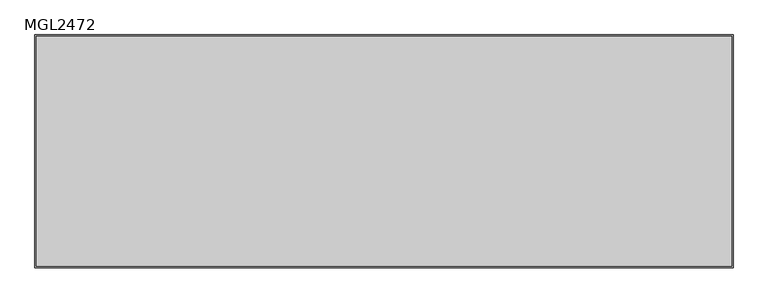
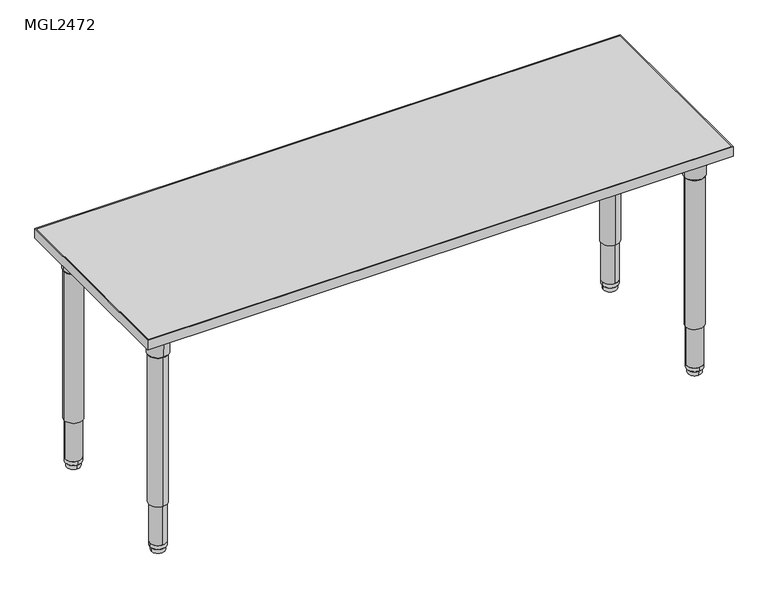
"""IFC4 building model written with IfcOpenShell, lengths in millimetres: furniture geometry, ERG-Mingle-Table-Rectangle : MGL2472."""

from ifc_helpers import new_model, si_unit, point, frame, frame_2d, origin, place, context, project, spatial, polyline, circle_curve, trimmed, segment, composite_curve, outline, extrude, source, transform, mapped, element, save
from ifc_brep_helpers import plane_surface, cylinder_surface, revolved_surface, advanced_brep


def mgl2472_9e382c9f(model_context):
    return source(origin(), model_context, "Body", "SolidModel", [
        advanced_brep(
        [(808.1646842, -228.6, 650.5933069), (868.2353158, -228.6, 650.5933069), (838.2, -228.6, 650.5933069), (806.056117, -228.6, 654.3580481), (870.343883, -228.6, 654.3580481), (805.1206351, -228.6, 707.7631458), (871.2793649, -228.6, 707.7631458), (801.671083, -228.6, 714.1198315), (874.728917, -228.6, 714.1198315), (801.671083, -228.6, 726.8198315), (874.728917, -228.6, 726.8198315), (838.2, -228.6, 726.8198315)],
        [
            (0, 1, circle_curve(frame((838.2, -228.6, 650.5933069), z_axis=(0.0, 0.0, -1.0), x_axis=(1.0, 0.0, 0.0)), 30.0353158)),
            (1, 2),
            (2, 0),
            (1, 0, circle_curve(frame((838.2, -228.6, 650.5933069), z_axis=(0.0, 0.0, -1.0), x_axis=(1.0, 0.0, 0.0)), 30.0353158)),
            (3, 4, circle_curve(frame((838.2, -228.6, 654.3580481), z_axis=(0.0, 0.0, -1.0), x_axis=(1.0, 0.0, 0.0)), 32.143883)),
            (4, 1),
            (0, 3),
            (4, 3, circle_curve(frame((838.2, -228.6, 654.3580481), z_axis=(0.0, 0.0, -1.0), x_axis=(1.0, 0.0, 0.0)), 32.143883)),
            (5, 6, circle_curve(frame((838.2, -228.6, 707.7631458), z_axis=(0.0, 0.0, -1.0), x_axis=(1.0, 0.0, 0.0)), 33.0793649)),
            (6, 4),
            (3, 5),
            (6, 5, circle_curve(frame((838.2, -228.6, 707.7631458), z_axis=(0.0, 0.0, -1.0), x_axis=(1.0, 0.0, 0.0)), 33.0793649)),
            (7, 8, circle_curve(frame((838.2, -228.6, 714.1198315), z_axis=(0.0, 0.0, -1.0), x_axis=(1.0, 0.0, 0.0)), 36.528917)),
            (8, 6),
            (5, 7),
            (8, 7, circle_curve(frame((838.2, -228.6, 714.1198315), z_axis=(0.0, 0.0, -1.0), x_axis=(1.0, 0.0, 0.0)), 36.528917)),
            (9, 10, circle_curve(frame((838.2, -228.6, 726.8198315), z_axis=(0.0, 0.0, -1.0), x_axis=(1.0, 0.0, 0.0)), 36.528917)),
            (10, 8),
            (7, 9),
            (10, 9, circle_curve(frame((838.2, -228.6, 726.8198315), z_axis=(0.0, 0.0, -1.0), x_axis=(1.0, 0.0, 0.0)), 36.528917)),
            (11, 10),
            (9, 11),
        ],
        [
            plane_surface(frame((838.2, -228.6, 650.5933069), z_axis=(0.0, 0.0, -1.0), x_axis=(1.0, 0.0, 0.0))),
            revolved_surface(polyline([(868.2353158, -228.6, 650.5933069), (870.343883, -228.6, 654.3580481)]), (838.2, -228.6, 726.8198315), (0.0, 0.0, 1.0)),
            revolved_surface(polyline([(870.343883, -228.6, 654.3580481), (871.2793649, -228.6, 707.7631458)]), (838.2, -228.6, 726.8198315), (0.0, 0.0, 1.0)),
            revolved_surface(polyline([(871.2793649, -228.6, 707.7631458), (874.728917, -228.6, 714.1198315)]), (838.2, -228.6, 726.8198315), (0.0, 0.0, 1.0)),
            cylinder_surface(frame((838.2, -228.6, 726.8198315), z_axis=(0.0, 0.0, 1.0), x_axis=(1.0, 0.0, 0.0)), 36.528917),
            plane_surface(frame((838.2, -228.6, 726.8198315), z_axis=(0.0, 0.0, 1.0), x_axis=(1.0, 0.0, 0.0))),
        ],
        [
            (0, [[1, 2, 3]]),
            (0, [[4, -3, -2]]),
            (1, [[5, 6, -1, 7]]),
            (1, [[8, -7, -4, -6]]),
            (2, [[9, 10, -5, 11]]),
            (2, [[12, -11, -8, -10]]),
            (3, [[13, 14, -9, 15]]),
            (3, [[16, -15, -12, -14]]),
            (4, [[17, 18, -13, 19]]),
            (4, [[20, -19, -16, -18]]),
            (5, [[21, -17, 22]]),
            (5, [[-22, -20, -21]]),
        ],
    ),
        extrude(outline(composite_curve([segment(polyline([(884.073768, -146.0223426), (884.073768, -259.7483754)]), True, "CONTINUOUS"), segment(trimmed(circle_curve(frame_2d((868.198768, -259.7483754)), 15.875), [point((884.073768, -259.7483754))], [point((868.198768, -275.6233754))], False, "CARTESIAN"), True, "CONTINUOUS"), segment(polyline([(868.198768, -275.6233754), (754.4864205, -275.6233754)]), True, "CONTINUOUS"), segment(trimmed(circle_curve(frame_2d((754.4864205, -262.9233754)), 12.7), [point((754.4864205, -275.6233754))], [point((741.8491923, -261.6622394))], False, "CARTESIAN"), True, "CONTINUOUS"), segment(trimmed(circle_curve(frame_2d((884.3486077, -275.8830117)), 143.2072406), [point((741.8491923, -261.6622394))], [point((870.1111525, -133.3852622))], False, "CARTESIAN"), True, "CONTINUOUS"), segment(trimmed(circle_curve(frame_2d((871.373768, -146.0223426)), 12.7), [point((870.1111525, -133.3852622))], [point((884.073768, -146.0223426))], False, "CARTESIAN"), True, "CONTINUOUS")], self_intersect=False)), frame((0.0, 0.0, 726.8198315), z_axis=(0.0, 0.0, 1.0), x_axis=(1.0, 0.0, 0.0)), (0.0, 0.0, 1.0), 3.4301685),
        extrude(outline(composite_curve([segment(trimmed(circle_curve(frame_2d((838.2, -228.6)), 28.575), [point((866.775, -228.6))], [point((809.625, -228.6))], False, "CARTESIAN"), True, "CONTINUOUS"), segment(trimmed(circle_curve(frame_2d((838.2, -228.6)), 28.575), [point((809.625, -228.6))], [point((866.775, -228.6))], False, "CARTESIAN"), True, "CONTINUOUS")], self_intersect=False)), frame((0.0, 0.0, 158.3876979), z_axis=(0.0, 0.0, 1.0), x_axis=(1.0, 0.0, 0.0)), (0.0, 0.0, 1.0), 495.4089866),
        extrude(outline(composite_curve([segment(trimmed(circle_curve(frame_2d((838.2, -228.6)), 25.4), [point((863.6, -228.6))], [point((812.8, -228.6))], False, "CARTESIAN"), True, "CONTINUOUS"), segment(trimmed(circle_curve(frame_2d((838.2, -228.6)), 25.4), [point((812.8, -228.6))], [point((863.6, -228.6))], False, "CARTESIAN"), True, "CONTINUOUS")], self_intersect=False)), frame((0.0, 0.0, 28.9580435), z_axis=(0.0, 0.0, 1.0), x_axis=(1.0, 0.0, 0.0)), (0.0, 0.0, 1.0), 176.7049119),
        advanced_brep(
        [(838.2, -203.3649896, 28.9580185), (838.2, -253.8350104, 28.9580185), (838.2, -228.6, 28.9580185), (838.2, -203.500761, 16.3032949), (838.2, -253.699239, 16.3032949), (838.2, -205.0160619, 14.7291007), (838.2, -252.1839381, 14.7291007), (838.2, -207.4591422, 14.7291007), (838.2, -249.7408578, 14.7291007), (838.2, -207.6521336, 0.0), (838.2, -249.5478664, 0.0), (838.2, -228.6, 0.0)],
        [
            (0, 1, circle_curve(frame((838.2, -228.6, 28.9580185), z_axis=(0.0, 0.0, 1.0), x_axis=(0.0, -1.0, 0.0)), 25.2350104)),
            (1, 2),
            (2, 0),
            (1, 0, circle_curve(frame((838.2, -228.6, 28.9580185), z_axis=(0.0, 0.0, 1.0), x_axis=(0.0, -1.0, 0.0)), 25.2350104)),
            (3, 4, circle_curve(frame((838.2, -228.6, 16.3032949), z_axis=(0.0, 0.0, 1.0), x_axis=(0.0, -1.0, 0.0)), 25.099239)),
            (4, 1),
            (0, 3),
            (4, 3, circle_curve(frame((838.2, -228.6, 16.3032949), z_axis=(0.0, 0.0, 1.0), x_axis=(0.0, -1.0, 0.0)), 25.099239)),
            (5, 6, circle_curve(frame((838.2, -228.6, 14.7291007), z_axis=(0.0, 0.0, 1.0), x_axis=(0.0, -1.0, 0.0)), 23.5839381)),
            (6, 4),
            (3, 5),
            (6, 5, circle_curve(frame((838.2, -228.6, 14.7291007), z_axis=(0.0, 0.0, 1.0), x_axis=(0.0, -1.0, 0.0)), 23.5839381)),
            (7, 8, circle_curve(frame((838.2, -228.6, 14.7291007), z_axis=(0.0, 0.0, 1.0), x_axis=(0.0, -1.0, 0.0)), 21.1408578)),
            (8, 6),
            (5, 7),
            (8, 7, circle_curve(frame((838.2, -228.6, 14.7291007), z_axis=(0.0, 0.0, 1.0), x_axis=(0.0, -1.0, 0.0)), 21.1408578)),
            (9, 10, circle_curve(frame((838.2, -228.6, 0.0), z_axis=(0.0, 0.0, 1.0), x_axis=(0.0, -1.0, 0.0)), 20.9478664)),
            (10, 8),
            (7, 9),
            (10, 9, circle_curve(frame((838.2, -228.6, 0.0), z_axis=(0.0, 0.0, 1.0), x_axis=(0.0, -1.0, 0.0)), 20.9478664)),
            (11, 10),
            (9, 11),
        ],
        [
            plane_surface(frame((838.2, -228.6, 28.9580185), z_axis=(0.0, 0.0, 1.0), x_axis=(0.0, -1.0, 0.0))),
            revolved_surface(polyline([(838.2, -253.8350104, 28.9580185), (838.2, -253.699239, 16.3032949)]), (838.2, -228.6, 0.0), (0.0, 0.0, -1.0)),
            revolved_surface(polyline([(838.2, -253.699239, 16.3032949), (838.2, -252.1839381, 14.7291007)]), (838.2, -228.6, 0.0), (0.0, 0.0, -1.0)),
            plane_surface(frame((838.2, -228.6, 14.7291007), z_axis=(0.0, 0.0, -1.0), x_axis=(0.0, -1.0, 0.0))),
            revolved_surface(polyline([(838.2, -249.7408578, 14.7291007), (838.2, -249.5478664, 0.0)]), (838.2, -228.6, 0.0), (0.0, 0.0, -1.0)),
            plane_surface(frame((838.2, -228.6, 0.0), z_axis=(0.0, 0.0, -1.0), x_axis=(0.0, -1.0, 0.0))),
        ],
        [
            (0, [[1, 2, 3]]),
            (0, [[4, -3, -2]]),
            (1, [[5, 6, -1, 7]]),
            (1, [[8, -7, -4, -6]]),
            (2, [[9, 10, -5, 11]]),
            (2, [[12, -11, -8, -10]]),
            (3, [[13, 14, -9, 15]]),
            (3, [[16, -15, -12, -14]]),
            (4, [[17, 18, -13, 19]]),
            (4, [[20, -19, -16, -18]]),
            (5, [[21, -17, 22]]),
            (5, [[-22, -20, -21]]),
        ],
    ),
        advanced_brep(
        [(-838.2, -198.5646842, 650.5933069), (-838.2, -258.6353158, 650.5933069), (-838.2, -228.6, 650.5933069), (-838.2, -196.456117, 654.3580481), (-838.2, -260.743883, 654.3580481), (-838.2, -195.5206351, 707.7631458), (-838.2, -261.6793649, 707.7631458), (-838.2, -192.071083, 714.1198315), (-838.2, -265.128917, 714.1198315), (-838.2, -192.071083, 726.8198315), (-838.2, -265.128917, 726.8198315), (-838.2, -228.6, 726.8198315)],
        [
            (0, 1, circle_curve(frame((-838.2, -228.6, 650.5933069), z_axis=(0.0, 0.0, -1.0), x_axis=(0.0, -1.0, 0.0)), 30.0353158)),
            (1, 2),
            (2, 0),
            (1, 0, circle_curve(frame((-838.2, -228.6, 650.5933069), z_axis=(0.0, 0.0, -1.0), x_axis=(0.0, -1.0, 0.0)), 30.0353158)),
            (3, 4, circle_curve(frame((-838.2, -228.6, 654.3580481), z_axis=(0.0, 0.0, -1.0), x_axis=(0.0, -1.0, 0.0)), 32.143883)),
            (4, 1),
            (0, 3),
            (4, 3, circle_curve(frame((-838.2, -228.6, 654.3580481), z_axis=(0.0, 0.0, -1.0), x_axis=(0.0, -1.0, 0.0)), 32.143883)),
            (5, 6, circle_curve(frame((-838.2, -228.6, 707.7631458), z_axis=(0.0, 0.0, -1.0), x_axis=(0.0, -1.0, 0.0)), 33.0793649)),
            (6, 4),
            (3, 5),
            (6, 5, circle_curve(frame((-838.2, -228.6, 707.7631458), z_axis=(0.0, 0.0, -1.0), x_axis=(0.0, -1.0, 0.0)), 33.0793649)),
            (7, 8, circle_curve(frame((-838.2, -228.6, 714.1198315), z_axis=(0.0, 0.0, -1.0), x_axis=(0.0, -1.0, 0.0)), 36.528917)),
            (8, 6),
            (5, 7),
            (8, 7, circle_curve(frame((-838.2, -228.6, 714.1198315), z_axis=(0.0, 0.0, -1.0), x_axis=(0.0, -1.0, 0.0)), 36.528917)),
            (9, 10, circle_curve(frame((-838.2, -228.6, 726.8198315), z_axis=(0.0, 0.0, -1.0), x_axis=(0.0, -1.0, 0.0)), 36.528917)),
            (10, 8),
            (7, 9),
            (10, 9, circle_curve(frame((-838.2, -228.6, 726.8198315), z_axis=(0.0, 0.0, -1.0), x_axis=(0.0, -1.0, 0.0)), 36.528917)),
            (11, 10),
            (9, 11),
        ],
        [
            plane_surface(frame((-838.2, -228.6, 650.5933069), z_axis=(0.0, 0.0, -1.0), x_axis=(0.0, -1.0, 0.0))),
            revolved_surface(polyline([(-838.2, -258.6353158, 650.5933069), (-838.2, -260.743883, 654.3580481)]), (-838.2, -228.6, 726.8198315), (0.0, 0.0, 1.0)),
            revolved_surface(polyline([(-838.2, -260.743883, 654.3580481), (-838.2, -261.6793649, 707.7631458)]), (-838.2, -228.6, 726.8198315), (0.0, 0.0, 1.0)),
            revolved_surface(polyline([(-838.2, -261.6793649, 707.7631458), (-838.2, -265.128917, 714.1198315)]), (-838.2, -228.6, 726.8198315), (0.0, 0.0, 1.0)),
            cylinder_surface(frame((-838.2, -228.6, 726.8198315), z_axis=(0.0, 0.0, 1.0), x_axis=(0.0, -1.0, 0.0)), 36.528917),
            plane_surface(frame((-838.2, -228.6, 726.8198315), z_axis=(0.0, 0.0, 1.0), x_axis=(0.0, -1.0, 0.0))),
        ],
        [
            (0, [[1, 2, 3]]),
            (0, [[4, -3, -2]]),
            (1, [[5, 6, -1, 7]]),
            (1, [[8, -7, -4, -6]]),
            (2, [[9, 10, -5, 11]]),
            (2, [[12, -11, -8, -10]]),
            (3, [[13, 14, -9, 15]]),
            (3, [[16, -15, -12, -14]]),
            (4, [[17, 18, -13, 19]]),
            (4, [[20, -19, -16, -18]]),
            (5, [[21, -17, 22]]),
            (5, [[-22, -20, -21]]),
        ],
    ),
        extrude(outline(composite_curve([segment(polyline([(-755.6223426, -274.473768), (-869.3483754, -274.473768)]), True, "CONTINUOUS"), segment(trimmed(circle_curve(frame_2d((-869.3483754, -258.598768)), 15.875), [point((-869.3483754, -274.473768))], [point((-885.2233754, -258.598768))], False, "CARTESIAN"), True, "CONTINUOUS"), segment(polyline([(-885.2233754, -258.598768), (-885.2233754, -144.8864205)]), True, "CONTINUOUS"), segment(trimmed(circle_curve(frame_2d((-872.5233754, -144.8864205)), 12.7), [point((-885.2233754, -144.8864205))], [point((-871.2622394, -132.2491923))], False, "CARTESIAN"), True, "CONTINUOUS"), segment(trimmed(circle_curve(frame_2d((-885.4830117, -274.7486077)), 143.2072406), [point((-871.2622394, -132.2491923))], [point((-742.9852622, -260.5111525))], False, "CARTESIAN"), True, "CONTINUOUS"), segment(trimmed(circle_curve(frame_2d((-755.6223426, -261.773768)), 12.7), [point((-742.9852622, -260.5111525))], [point((-755.6223426, -274.473768))], False, "CARTESIAN"), True, "CONTINUOUS")], self_intersect=False)), frame((0.0, 0.0, 726.8198315), z_axis=(0.0, 0.0, 1.0), x_axis=(1.0, 0.0, 0.0)), (0.0, 0.0, 1.0), 3.4301685),
        extrude(outline(composite_curve([segment(trimmed(circle_curve(frame_2d((-838.2, -228.6)), 28.575), [point((-838.2, -257.175))], [point((-838.2, -200.025))], False, "CARTESIAN"), True, "CONTINUOUS"), segment(trimmed(circle_curve(frame_2d((-838.2, -228.6)), 28.575), [point((-838.2, -200.025))], [point((-838.2, -257.175))], False, "CARTESIAN"), True, "CONTINUOUS")], self_intersect=False)), frame((0.0, 0.0, 158.3876979), z_axis=(0.0, 0.0, 1.0), x_axis=(1.0, 0.0, 0.0)), (0.0, 0.0, 1.0), 495.4089866),
        extrude(outline(composite_curve([segment(trimmed(circle_curve(frame_2d((-838.2, -228.6)), 25.4), [point((-838.2, -254.0))], [point((-838.2, -203.2))], False, "CARTESIAN"), True, "CONTINUOUS"), segment(trimmed(circle_curve(frame_2d((-838.2, -228.6)), 25.4), [point((-838.2, -203.2))], [point((-838.2, -254.0))], False, "CARTESIAN"), True, "CONTINUOUS")], self_intersect=False)), frame((0.0, 0.0, 28.9580435), z_axis=(0.0, 0.0, 1.0), x_axis=(1.0, 0.0, 0.0)), (0.0, 0.0, 1.0), 176.7049119),
        advanced_brep(
        [(-812.9649896, -228.6, 28.9580185), (-863.4350104, -228.6, 28.9580185), (-838.2, -228.6, 28.9580185), (-813.100761, -228.6, 16.3032949), (-863.299239, -228.6, 16.3032949), (-814.6160619, -228.6, 14.7291007), (-861.7839381, -228.6, 14.7291007), (-817.0591422, -228.6, 14.7291007), (-859.3408578, -228.6, 14.7291007), (-817.2521336, -228.6, 0.0), (-859.1478664, -228.6, 0.0), (-838.2, -228.6, 0.0)],
        [
            (0, 1, circle_curve(frame((-838.2, -228.6, 28.9580185), z_axis=(0.0, 0.0, 1.0), x_axis=(-1.0, 0.0, 0.0)), 25.2350104)),
            (1, 2),
            (2, 0),
            (1, 0, circle_curve(frame((-838.2, -228.6, 28.9580185), z_axis=(0.0, 0.0, 1.0), x_axis=(-1.0, 0.0, 0.0)), 25.2350104)),
            (3, 4, circle_curve(frame((-838.2, -228.6, 16.3032949), z_axis=(0.0, 0.0, 1.0), x_axis=(-1.0, 0.0, 0.0)), 25.099239)),
            (4, 1),
            (0, 3),
            (4, 3, circle_curve(frame((-838.2, -228.6, 16.3032949), z_axis=(0.0, 0.0, 1.0), x_axis=(-1.0, 0.0, 0.0)), 25.099239)),
            (5, 6, circle_curve(frame((-838.2, -228.6, 14.7291007), z_axis=(0.0, 0.0, 1.0), x_axis=(-1.0, 0.0, 0.0)), 23.5839381)),
            (6, 4),
            (3, 5),
            (6, 5, circle_curve(frame((-838.2, -228.6, 14.7291007), z_axis=(0.0, 0.0, 1.0), x_axis=(-1.0, 0.0, 0.0)), 23.5839381)),
            (7, 8, circle_curve(frame((-838.2, -228.6, 14.7291007), z_axis=(0.0, 0.0, 1.0), x_axis=(-1.0, 0.0, 0.0)), 21.1408578)),
            (8, 6),
            (5, 7),
            (8, 7, circle_curve(frame((-838.2, -228.6, 14.7291007), z_axis=(0.0, 0.0, 1.0), x_axis=(-1.0, 0.0, 0.0)), 21.1408578)),
            (9, 10, circle_curve(frame((-838.2, -228.6, 0.0), z_axis=(0.0, 0.0, 1.0), x_axis=(-1.0, 0.0, 0.0)), 20.9478664)),
            (10, 8),
            (7, 9),
            (10, 9, circle_curve(frame((-838.2, -228.6, 0.0), z_axis=(0.0, 0.0, 1.0), x_axis=(-1.0, 0.0, 0.0)), 20.9478664)),
            (11, 10),
            (9, 11),
        ],
        [
            plane_surface(frame((-838.2, -228.6, 28.9580185), z_axis=(0.0, 0.0, 1.0), x_axis=(-1.0, 0.0, 0.0))),
            revolved_surface(polyline([(-863.4350104, -228.6, 28.9580185), (-863.299239, -228.6, 16.3032949)]), (-838.2, -228.6, 0.0), (0.0, 0.0, -1.0)),
            revolved_surface(polyline([(-863.299239, -228.6, 16.3032949), (-861.7839381, -228.6, 14.7291007)]), (-838.2, -228.6, 0.0), (0.0, 0.0, -1.0)),
            plane_surface(frame((-838.2, -228.6, 14.7291007), z_axis=(0.0, 0.0, -1.0), x_axis=(-1.0, 0.0, 0.0))),
            revolved_surface(polyline([(-859.3408578, -228.6, 14.7291007), (-859.1478664, -228.6, 0.0)]), (-838.2, -228.6, 0.0), (0.0, 0.0, -1.0)),
            plane_surface(frame((-838.2, -228.6, 0.0), z_axis=(0.0, 0.0, -1.0), x_axis=(-1.0, 0.0, 0.0))),
        ],
        [
            (0, [[1, 2, 3]]),
            (0, [[4, -3, -2]]),
            (1, [[5, 6, -1, 7]]),
            (1, [[8, -7, -4, -6]]),
            (2, [[9, 10, -5, 11]]),
            (2, [[12, -11, -8, -10]]),
            (3, [[13, 14, -9, 15]]),
            (3, [[16, -15, -12, -14]]),
            (4, [[17, 18, -13, 19]]),
            (4, [[20, -19, -16, -18]]),
            (5, [[21, -17, 22]]),
            (5, [[-22, -20, -21]]),
        ],
    ),
        advanced_brep(
        [(838.2, 198.5646842, 650.5933069), (838.2, 258.6353158, 650.5933069), (838.2, 228.6, 650.5933069), (838.2, 196.456117, 654.3580481), (838.2, 260.743883, 654.3580481), (838.2, 195.5206351, 707.7631458), (838.2, 261.6793649, 707.7631458), (838.2, 192.071083, 714.1198315), (838.2, 265.128917, 714.1198315), (838.2, 192.071083, 726.8198315), (838.2, 265.128917, 726.8198315), (838.2, 228.6, 726.8198315)],
        [
            (0, 1, circle_curve(frame((838.2, 228.6, 650.5933069), z_axis=(0.0, 0.0, -1.0), x_axis=(0.0, 1.0, 0.0)), 30.0353158)),
            (1, 2),
            (2, 0),
            (1, 0, circle_curve(frame((838.2, 228.6, 650.5933069), z_axis=(0.0, 0.0, -1.0), x_axis=(0.0, 1.0, 0.0)), 30.0353158)),
            (3, 4, circle_curve(frame((838.2, 228.6, 654.3580481), z_axis=(0.0, 0.0, -1.0), x_axis=(0.0, 1.0, 0.0)), 32.143883)),
            (4, 1),
            (0, 3),
            (4, 3, circle_curve(frame((838.2, 228.6, 654.3580481), z_axis=(0.0, 0.0, -1.0), x_axis=(0.0, 1.0, 0.0)), 32.143883)),
            (5, 6, circle_curve(frame((838.2, 228.6, 707.7631458), z_axis=(0.0, 0.0, -1.0), x_axis=(0.0, 1.0, 0.0)), 33.0793649)),
            (6, 4),
            (3, 5),
            (6, 5, circle_curve(frame((838.2, 228.6, 707.7631458), z_axis=(0.0, 0.0, -1.0), x_axis=(0.0, 1.0, 0.0)), 33.0793649)),
            (7, 8, circle_curve(frame((838.2, 228.6, 714.1198315), z_axis=(0.0, 0.0, -1.0), x_axis=(0.0, 1.0, 0.0)), 36.528917)),
            (8, 6),
            (5, 7),
            (8, 7, circle_curve(frame((838.2, 228.6, 714.1198315), z_axis=(0.0, 0.0, -1.0), x_axis=(0.0, 1.0, 0.0)), 36.528917)),
            (9, 10, circle_curve(frame((838.2, 228.6, 726.8198315), z_axis=(0.0, 0.0, -1.0), x_axis=(0.0, 1.0, 0.0)), 36.528917)),
            (10, 8),
            (7, 9),
            (10, 9, circle_curve(frame((838.2, 228.6, 726.8198315), z_axis=(0.0, 0.0, -1.0), x_axis=(0.0, 1.0, 0.0)), 36.528917)),
            (11, 10),
            (9, 11),
        ],
        [
            plane_surface(frame((838.2, 228.6, 650.5933069), z_axis=(0.0, 0.0, -1.0), x_axis=(0.0, 1.0, 0.0))),
            revolved_surface(polyline([(838.2, 258.6353158, 650.5933069), (838.2, 260.743883, 654.3580481)]), (838.2, 228.6, 726.8198315), (0.0, 0.0, 1.0)),
            revolved_surface(polyline([(838.2, 260.743883, 654.3580481), (838.2, 261.6793649, 707.7631458)]), (838.2, 228.6, 726.8198315), (0.0, 0.0, 1.0)),
            revolved_surface(polyline([(838.2, 261.6793649, 707.7631458), (838.2, 265.128917, 714.1198315)]), (838.2, 228.6, 726.8198315), (0.0, 0.0, 1.0)),
            cylinder_surface(frame((838.2, 228.6, 726.8198315), z_axis=(0.0, 0.0, 1.0), x_axis=(0.0, 1.0, 0.0)), 36.528917),
            plane_surface(frame((838.2, 228.6, 726.8198315), z_axis=(0.0, 0.0, 1.0), x_axis=(0.0, 1.0, 0.0))),
        ],
        [
            (0, [[1, 2, 3]]),
            (0, [[4, -3, -2]]),
            (1, [[5, 6, -1, 7]]),
            (1, [[8, -7, -4, -6]]),
            (2, [[9, 10, -5, 11]]),
            (2, [[12, -11, -8, -10]]),
            (3, [[13, 14, -9, 15]]),
            (3, [[16, -15, -12, -14]]),
            (4, [[17, 18, -13, 19]]),
            (4, [[20, -19, -16, -18]]),
            (5, [[21, -17, 22]]),
            (5, [[-22, -20, -21]]),
        ],
    ),
        extrude(outline(composite_curve([segment(polyline([(755.6223426, 274.473768), (869.3483754, 274.473768)]), True, "CONTINUOUS"), segment(trimmed(circle_curve(frame_2d((869.3483754, 258.598768)), 15.875), [point((869.3483754, 274.473768))], [point((885.2233754, 258.598768))], False, "CARTESIAN"), True, "CONTINUOUS"), segment(polyline([(885.2233754, 258.598768), (885.2233754, 144.8864205)]), True, "CONTINUOUS"), segment(trimmed(circle_curve(frame_2d((872.5233754, 144.8864205)), 12.7), [point((885.2233754, 144.8864205))], [point((871.2622394, 132.2491923))], False, "CARTESIAN"), True, "CONTINUOUS"), segment(trimmed(circle_curve(frame_2d((885.4830117, 274.7486077)), 143.2072406), [point((871.2622394, 132.2491923))], [point((742.9852622, 260.5111525))], False, "CARTESIAN"), True, "CONTINUOUS"), segment(trimmed(circle_curve(frame_2d((755.6223426, 261.773768)), 12.7), [point((742.9852622, 260.5111525))], [point((755.6223426, 274.473768))], False, "CARTESIAN"), True, "CONTINUOUS")], self_intersect=False)), frame((0.0, 0.0, 726.8198315), z_axis=(0.0, 0.0, 1.0), x_axis=(1.0, 0.0, 0.0)), (0.0, 0.0, 1.0), 3.4301685),
        extrude(outline(composite_curve([segment(trimmed(circle_curve(frame_2d((838.2, 228.6)), 28.575), [point((838.2, 257.175))], [point((838.2, 200.025))], False, "CARTESIAN"), True, "CONTINUOUS"), segment(trimmed(circle_curve(frame_2d((838.2, 228.6)), 28.575), [point((838.2, 200.025))], [point((838.2, 257.175))], False, "CARTESIAN"), True, "CONTINUOUS")], self_intersect=False)), frame((0.0, 0.0, 158.3876979), z_axis=(0.0, 0.0, 1.0), x_axis=(1.0, 0.0, 0.0)), (0.0, 0.0, 1.0), 495.4089866),
        extrude(outline(composite_curve([segment(trimmed(circle_curve(frame_2d((838.2, 228.6)), 25.4), [point((838.2, 254.0))], [point((838.2, 203.2))], False, "CARTESIAN"), True, "CONTINUOUS"), segment(trimmed(circle_curve(frame_2d((838.2, 228.6)), 25.4), [point((838.2, 203.2))], [point((838.2, 254.0))], False, "CARTESIAN"), True, "CONTINUOUS")], self_intersect=False)), frame((0.0, 0.0, 28.9580435), z_axis=(0.0, 0.0, 1.0), x_axis=(1.0, 0.0, 0.0)), (0.0, 0.0, 1.0), 176.7049119),
        advanced_brep(
        [(812.9649896, 228.6, 28.9580185), (863.4350104, 228.6, 28.9580185), (838.2, 228.6, 28.9580185), (813.100761, 228.6, 16.3032949), (863.299239, 228.6, 16.3032949), (814.6160619, 228.6, 14.7291007), (861.7839381, 228.6, 14.7291007), (817.0591422, 228.6, 14.7291007), (859.3408578, 228.6, 14.7291007), (817.2521336, 228.6, 0.0), (859.1478664, 228.6, 0.0), (838.2, 228.6, 0.0)],
        [
            (0, 1, circle_curve(frame((838.2, 228.6, 28.9580185), z_axis=(0.0, 0.0, 1.0), x_axis=(1.0, 0.0, 0.0)), 25.2350104)),
            (1, 2),
            (2, 0),
            (1, 0, circle_curve(frame((838.2, 228.6, 28.9580185), z_axis=(0.0, 0.0, 1.0), x_axis=(1.0, 0.0, 0.0)), 25.2350104)),
            (3, 4, circle_curve(frame((838.2, 228.6, 16.3032949), z_axis=(0.0, 0.0, 1.0), x_axis=(1.0, 0.0, 0.0)), 25.099239)),
            (4, 1),
            (0, 3),
            (4, 3, circle_curve(frame((838.2, 228.6, 16.3032949), z_axis=(0.0, 0.0, 1.0), x_axis=(1.0, 0.0, 0.0)), 25.099239)),
            (5, 6, circle_curve(frame((838.2, 228.6, 14.7291007), z_axis=(0.0, 0.0, 1.0), x_axis=(1.0, 0.0, 0.0)), 23.5839381)),
            (6, 4),
            (3, 5),
            (6, 5, circle_curve(frame((838.2, 228.6, 14.7291007), z_axis=(0.0, 0.0, 1.0), x_axis=(1.0, 0.0, 0.0)), 23.5839381)),
            (7, 8, circle_curve(frame((838.2, 228.6, 14.7291007), z_axis=(0.0, 0.0, 1.0), x_axis=(1.0, 0.0, 0.0)), 21.1408578)),
            (8, 6),
            (5, 7),
            (8, 7, circle_curve(frame((838.2, 228.6, 14.7291007), z_axis=(0.0, 0.0, 1.0), x_axis=(1.0, 0.0, 0.0)), 21.1408578)),
            (9, 10, circle_curve(frame((838.2, 228.6, 0.0), z_axis=(0.0, 0.0, 1.0), x_axis=(1.0, 0.0, 0.0)), 20.9478664)),
            (10, 8),
            (7, 9),
            (10, 9, circle_curve(frame((838.2, 228.6, 0.0), z_axis=(0.0, 0.0, 1.0), x_axis=(1.0, 0.0, 0.0)), 20.9478664)),
            (11, 10),
            (9, 11),
        ],
        [
            plane_surface(frame((838.2, 228.6, 28.9580185), z_axis=(0.0, 0.0, 1.0), x_axis=(1.0, 0.0, 0.0))),
            revolved_surface(polyline([(863.4350104, 228.6, 28.9580185), (863.299239, 228.6, 16.3032949)]), (838.2, 228.6, 0.0), (0.0, 0.0, -1.0)),
            revolved_surface(polyline([(863.299239, 228.6, 16.3032949), (861.7839381, 228.6, 14.7291007)]), (838.2, 228.6, 0.0), (0.0, 0.0, -1.0)),
            plane_surface(frame((838.2, 228.6, 14.7291007), z_axis=(0.0, 0.0, -1.0), x_axis=(1.0, 0.0, 0.0))),
            revolved_surface(polyline([(859.3408578, 228.6, 14.7291007), (859.1478664, 228.6, 0.0)]), (838.2, 228.6, 0.0), (0.0, 0.0, -1.0)),
            plane_surface(frame((838.2, 228.6, 0.0), z_axis=(0.0, 0.0, -1.0), x_axis=(1.0, 0.0, 0.0))),
        ],
        [
            (0, [[1, 2, 3]]),
            (0, [[4, -3, -2]]),
            (1, [[5, 6, -1, 7]]),
            (1, [[8, -7, -4, -6]]),
            (2, [[9, 10, -5, 11]]),
            (2, [[12, -11, -8, -10]]),
            (3, [[13, 14, -9, 15]]),
            (3, [[16, -15, -12, -14]]),
            (4, [[17, 18, -13, 19]]),
            (4, [[20, -19, -16, -18]]),
            (5, [[21, -17, 22]]),
            (5, [[-22, -20, -21]]),
        ],
    ),
        advanced_brep(
        [(-808.1646842, 228.6, 650.5933069), (-868.2353158, 228.6, 650.5933069), (-838.2, 228.6, 650.5933069), (-806.056117, 228.6, 654.3580481), (-870.343883, 228.6, 654.3580481), (-805.1206351, 228.6, 707.7631458), (-871.2793649, 228.6, 707.7631458), (-801.671083, 228.6, 714.1198315), (-874.728917, 228.6, 714.1198315), (-801.671083, 228.6, 726.8198315), (-874.728917, 228.6, 726.8198315), (-838.2, 228.6, 726.8198315)],
        [
            (0, 1, circle_curve(frame((-838.2, 228.6, 650.5933069), z_axis=(0.0, 0.0, -1.0), x_axis=(-1.0, 0.0, 0.0)), 30.0353158)),
            (1, 2),
            (2, 0),
            (1, 0, circle_curve(frame((-838.2, 228.6, 650.5933069), z_axis=(0.0, 0.0, -1.0), x_axis=(-1.0, 0.0, 0.0)), 30.0353158)),
            (3, 4, circle_curve(frame((-838.2, 228.6, 654.3580481), z_axis=(0.0, 0.0, -1.0), x_axis=(-1.0, 0.0, 0.0)), 32.143883)),
            (4, 1),
            (0, 3),
            (4, 3, circle_curve(frame((-838.2, 228.6, 654.3580481), z_axis=(0.0, 0.0, -1.0), x_axis=(-1.0, 0.0, 0.0)), 32.143883)),
            (5, 6, circle_curve(frame((-838.2, 228.6, 707.7631458), z_axis=(0.0, 0.0, -1.0), x_axis=(-1.0, 0.0, 0.0)), 33.0793649)),
            (6, 4),
            (3, 5),
            (6, 5, circle_curve(frame((-838.2, 228.6, 707.7631458), z_axis=(0.0, 0.0, -1.0), x_axis=(-1.0, 0.0, 0.0)), 33.0793649)),
            (7, 8, circle_curve(frame((-838.2, 228.6, 714.1198315), z_axis=(0.0, 0.0, -1.0), x_axis=(-1.0, 0.0, 0.0)), 36.528917)),
            (8, 6),
            (5, 7),
            (8, 7, circle_curve(frame((-838.2, 228.6, 714.1198315), z_axis=(0.0, 0.0, -1.0), x_axis=(-1.0, 0.0, 0.0)), 36.528917)),
            (9, 10, circle_curve(frame((-838.2, 228.6, 726.8198315), z_axis=(0.0, 0.0, -1.0), x_axis=(-1.0, 0.0, 0.0)), 36.528917)),
            (10, 8),
            (7, 9),
            (10, 9, circle_curve(frame((-838.2, 228.6, 726.8198315), z_axis=(0.0, 0.0, -1.0), x_axis=(-1.0, 0.0, 0.0)), 36.528917)),
            (11, 10),
            (9, 11),
        ],
        [
            plane_surface(frame((-838.2, 228.6, 650.5933069), z_axis=(0.0, 0.0, -1.0), x_axis=(-1.0, 0.0, 0.0))),
            revolved_surface(polyline([(-868.2353158, 228.6, 650.5933069), (-870.343883, 228.6, 654.3580481)]), (-838.2, 228.6, 726.8198315), (0.0, 0.0, 1.0)),
            revolved_surface(polyline([(-870.343883, 228.6, 654.3580481), (-871.2793649, 228.6, 707.7631458)]), (-838.2, 228.6, 726.8198315), (0.0, 0.0, 1.0)),
            revolved_surface(polyline([(-871.2793649, 228.6, 707.7631458), (-874.728917, 228.6, 714.1198315)]), (-838.2, 228.6, 726.8198315), (0.0, 0.0, 1.0)),
            cylinder_surface(frame((-838.2, 228.6, 726.8198315), z_axis=(0.0, 0.0, 1.0), x_axis=(-1.0, 0.0, 0.0)), 36.528917),
            plane_surface(frame((-838.2, 228.6, 726.8198315), z_axis=(0.0, 0.0, 1.0), x_axis=(-1.0, 0.0, 0.0))),
        ],
        [
            (0, [[1, 2, 3]]),
            (0, [[4, -3, -2]]),
            (1, [[5, 6, -1, 7]]),
            (1, [[8, -7, -4, -6]]),
            (2, [[9, 10, -5, 11]]),
            (2, [[12, -11, -8, -10]]),
            (3, [[13, 14, -9, 15]]),
            (3, [[16, -15, -12, -14]]),
            (4, [[17, 18, -13, 19]]),
            (4, [[20, -19, -16, -18]]),
            (5, [[21, -17, 22]]),
            (5, [[-22, -20, -21]]),
        ],
    ),
        extrude(outline(composite_curve([segment(polyline([(-884.073768, 146.0223426), (-884.073768, 259.7483754)]), True, "CONTINUOUS"), segment(trimmed(circle_curve(frame_2d((-868.198768, 259.7483754)), 15.875), [point((-884.073768, 259.7483754))], [point((-868.198768, 275.6233754))], False, "CARTESIAN"), True, "CONTINUOUS"), segment(polyline([(-868.198768, 275.6233754), (-754.4864205, 275.6233754)]), True, "CONTINUOUS"), segment(trimmed(circle_curve(frame_2d((-754.4864205, 262.9233754)), 12.7), [point((-754.4864205, 275.6233754))], [point((-741.8491923, 261.6622394))], False, "CARTESIAN"), True, "CONTINUOUS"), segment(trimmed(circle_curve(frame_2d((-884.3486077, 275.8830117)), 143.2072406), [point((-741.8491923, 261.6622394))], [point((-870.1111525, 133.3852622))], False, "CARTESIAN"), True, "CONTINUOUS"), segment(trimmed(circle_curve(frame_2d((-871.373768, 146.0223426)), 12.7), [point((-870.1111525, 133.3852622))], [point((-884.073768, 146.0223426))], False, "CARTESIAN"), True, "CONTINUOUS")], self_intersect=False)), frame((0.0, 0.0, 726.8198315), z_axis=(0.0, 0.0, 1.0), x_axis=(1.0, 0.0, 0.0)), (0.0, 0.0, 1.0), 3.4301685),
        extrude(outline(composite_curve([segment(trimmed(circle_curve(frame_2d((-838.2, 228.6)), 28.575), [point((-866.775, 228.6))], [point((-809.625, 228.6))], False, "CARTESIAN"), True, "CONTINUOUS"), segment(trimmed(circle_curve(frame_2d((-838.2, 228.6)), 28.575), [point((-809.625, 228.6))], [point((-866.775, 228.6))], False, "CARTESIAN"), True, "CONTINUOUS")], self_intersect=False)), frame((0.0, 0.0, 158.3876979), z_axis=(0.0, 0.0, 1.0), x_axis=(1.0, 0.0, 0.0)), (0.0, 0.0, 1.0), 495.4089866),
        extrude(outline(composite_curve([segment(trimmed(circle_curve(frame_2d((-838.2, 228.6)), 25.4), [point((-863.6, 228.6))], [point((-812.8, 228.6))], False, "CARTESIAN"), True, "CONTINUOUS"), segment(trimmed(circle_curve(frame_2d((-838.2, 228.6)), 25.4), [point((-812.8, 228.6))], [point((-863.6, 228.6))], False, "CARTESIAN"), True, "CONTINUOUS")], self_intersect=False)), frame((0.0, 0.0, 28.9580435), z_axis=(0.0, 0.0, 1.0), x_axis=(1.0, 0.0, 0.0)), (0.0, 0.0, 1.0), 176.7049119),
        advanced_brep(
        [(-838.2, 203.3649896, 28.9580185), (-838.2, 253.8350104, 28.9580185), (-838.2, 228.6, 28.9580185), (-838.2, 203.500761, 16.3032949), (-838.2, 253.699239, 16.3032949), (-838.2, 205.0160619, 14.7291007), (-838.2, 252.1839381, 14.7291007), (-838.2, 207.4591422, 14.7291007), (-838.2, 249.7408578, 14.7291007), (-838.2, 207.6521336, 0.0), (-838.2, 249.5478664, 0.0), (-838.2, 228.6, 0.0)],
        [
            (0, 1, circle_curve(frame((-838.2, 228.6, 28.9580185), z_axis=(0.0, 0.0, 1.0), x_axis=(0.0, 1.0, 0.0)), 25.2350104)),
            (1, 2),
            (2, 0),
            (1, 0, circle_curve(frame((-838.2, 228.6, 28.9580185), z_axis=(0.0, 0.0, 1.0), x_axis=(0.0, 1.0, 0.0)), 25.2350104)),
            (3, 4, circle_curve(frame((-838.2, 228.6, 16.3032949), z_axis=(0.0, 0.0, 1.0), x_axis=(0.0, 1.0, 0.0)), 25.099239)),
            (4, 1),
            (0, 3),
            (4, 3, circle_curve(frame((-838.2, 228.6, 16.3032949), z_axis=(0.0, 0.0, 1.0), x_axis=(0.0, 1.0, 0.0)), 25.099239)),
            (5, 6, circle_curve(frame((-838.2, 228.6, 14.7291007), z_axis=(0.0, 0.0, 1.0), x_axis=(0.0, 1.0, 0.0)), 23.5839381)),
            (6, 4),
            (3, 5),
            (6, 5, circle_curve(frame((-838.2, 228.6, 14.7291007), z_axis=(0.0, 0.0, 1.0), x_axis=(0.0, 1.0, 0.0)), 23.5839381)),
            (7, 8, circle_curve(frame((-838.2, 228.6, 14.7291007), z_axis=(0.0, 0.0, 1.0), x_axis=(0.0, 1.0, 0.0)), 21.1408578)),
            (8, 6),
            (5, 7),
            (8, 7, circle_curve(frame((-838.2, 228.6, 14.7291007), z_axis=(0.0, 0.0, 1.0), x_axis=(0.0, 1.0, 0.0)), 21.1408578)),
            (9, 10, circle_curve(frame((-838.2, 228.6, 0.0), z_axis=(0.0, 0.0, 1.0), x_axis=(0.0, 1.0, 0.0)), 20.9478664)),
            (10, 8),
            (7, 9),
            (10, 9, circle_curve(frame((-838.2, 228.6, 0.0), z_axis=(0.0, 0.0, 1.0), x_axis=(0.0, 1.0, 0.0)), 20.9478664)),
            (11, 10),
            (9, 11),
        ],
        [
            plane_surface(frame((-838.2, 228.6, 28.9580185), z_axis=(0.0, 0.0, 1.0), x_axis=(0.0, 1.0, 0.0))),
            revolved_surface(polyline([(-838.2, 253.8350104, 28.9580185), (-838.2, 253.699239, 16.3032949)]), (-838.2, 228.6, 0.0), (0.0, 0.0, -1.0)),
            revolved_surface(polyline([(-838.2, 253.699239, 16.3032949), (-838.2, 252.1839381, 14.7291007)]), (-838.2, 228.6, 0.0), (0.0, 0.0, -1.0)),
            plane_surface(frame((-838.2, 228.6, 14.7291007), z_axis=(0.0, 0.0, -1.0), x_axis=(0.0, 1.0, 0.0))),
            revolved_surface(polyline([(-838.2, 249.7408578, 14.7291007), (-838.2, 249.5478664, 0.0)]), (-838.2, 228.6, 0.0), (0.0, 0.0, -1.0)),
            plane_surface(frame((-838.2, 228.6, 0.0), z_axis=(0.0, 0.0, -1.0), x_axis=(0.0, 1.0, 0.0))),
        ],
        [
            (0, [[1, 2, 3]]),
            (0, [[4, -3, -2]]),
            (1, [[5, 6, -1, 7]]),
            (1, [[8, -7, -4, -6]]),
            (2, [[9, 10, -5, 11]]),
            (2, [[12, -11, -8, -10]]),
            (3, [[13, 14, -9, 15]]),
            (3, [[16, -15, -12, -14]]),
            (4, [[17, 18, -13, 19]]),
            (4, [[20, -19, -16, -18]]),
            (5, [[21, -17, 22]]),
            (5, [[-22, -20, -21]]),
        ],
    ),
        extrude(outline(polyline([(-911.225, 301.625), (911.225, 301.625), (911.225, -301.625), (-911.225, -301.625), (-911.225, 301.625)])), frame((0.0, 0.0, 730.25), z_axis=(0.0, 0.0, 1.0), x_axis=(1.0, 0.0, 0.0)), (0.0, 0.0, 1.0), 31.75),
        extrude(outline(polyline([(914.4, -304.8), (-914.4, -304.8), (-914.4, 304.8), (914.4, 304.8), (914.4, -304.8)]), holes=[polyline([(911.225, 301.625), (-911.225, 301.625), (-911.225, -301.625), (911.225, -301.625), (911.225, 301.625)])]), frame((0.0, 0.0, 730.25), z_axis=(0.0, 0.0, 1.0), x_axis=(1.0, 0.0, 0.0)), (0.0, 0.0, 1.0), 31.75),
    ])


if __name__ == "__main__":
    model = new_model("IFC4")
    model_context = context("Model", 3, world=origin())
    ifc_project = project(units=[si_unit("LENGTHUNIT", "METRE", prefix="MILLI")], contexts=[model_context])
    site = spatial("IfcSite", under=ifc_project)
    building = spatial("IfcBuilding", under=site)
    placement = place(None, origin())
    mgl2472_shape = mgl2472_9e382c9f(model_context)
    element("IfcFurniture", 1, ObjectType="ERG-Mingle-Table-Rectangle : MGL2472", at=placement, inside=building, context=model_context, shape_type="MappedRepresentation", body=[
        mapped(mgl2472_shape, transform((0.0, 0.0, 0.0), x_axis=(1.0, 0.0, 0.0), y_axis=(0.0, 1.0, 0.0), z_axis=(0.0, 0.0, 1.0))),
    ])
    save(model, "model.ifc")
